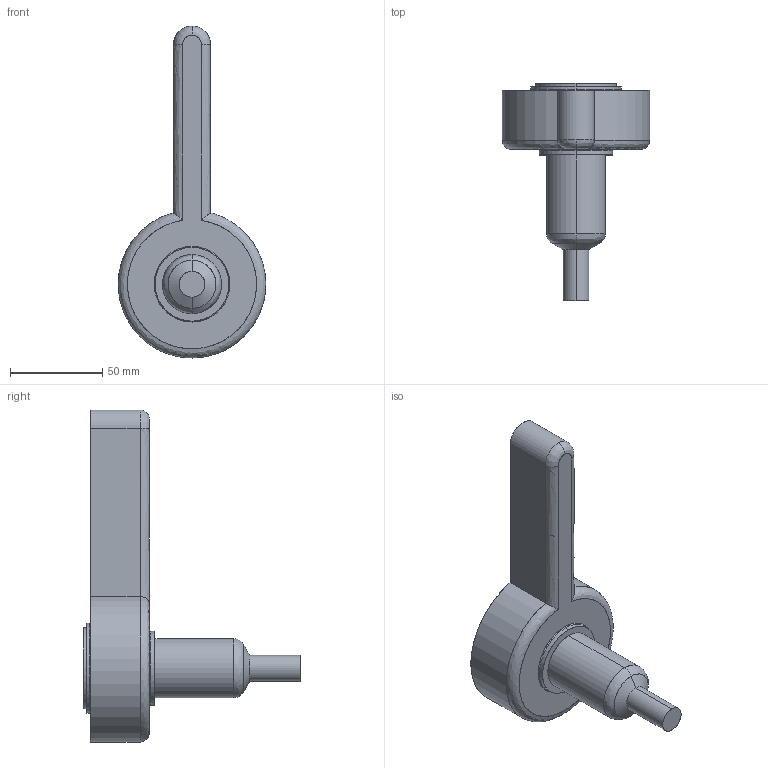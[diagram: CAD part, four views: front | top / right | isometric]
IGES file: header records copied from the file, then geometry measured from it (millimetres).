
Start section: SolidWorks IGES file using analytic representation for surfaces
Global section: file name: C:\Documents and Settings\ws-20\Desktop\TEM\Sede UGBE4501-S-A C-54 L-91 P-25.IGS; native system: SolidWorks 2012; preprocessor: SolidWorks 2012; author: ws-20; date: 120412.155708; units: millimetre
Bounding box: 79.99 x 118.14 x 180 mm (x, y, z)
Surface area: 34033.3 mm2 (no closed solid volume)
Topology: 0 solids, 0 shells, 34 faces, 788 edges, 788 vertices
Faces by surface type: revolution 21, bspline 13
